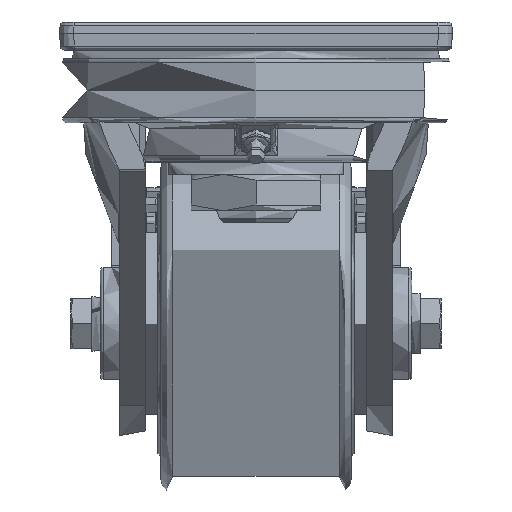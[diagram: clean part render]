
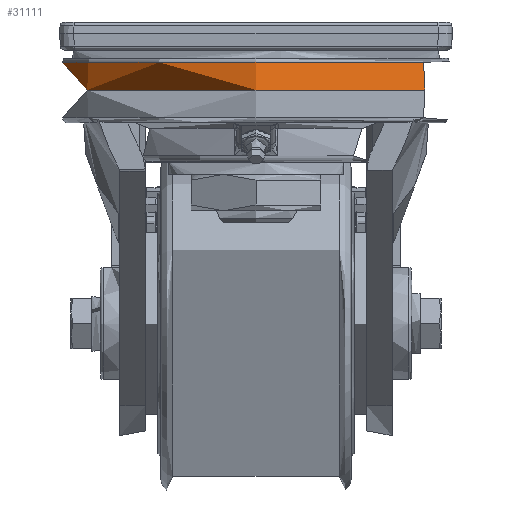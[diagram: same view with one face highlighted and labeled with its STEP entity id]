
A CAD part, left-side view. The second image highlights one B-rep face of the part: STEP entity #31111.
In plain terms, the highlighted conical face has half-angle 3 degrees and reference radius 69.242 mm.
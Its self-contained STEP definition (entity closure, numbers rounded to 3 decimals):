
#197=CONICAL_SURFACE('',#33366,69.242,0.052);
#3853=LINE('',#58060,#6271);
#6271=VECTOR('',#39850,69.242);
#8559=FACE_OUTER_BOUND('',#10436,.T.);
#10436=EDGE_LOOP('',(#27241,#27242,#27243,#27244,#27245,#27246,#27247));
#11628=CIRCLE('',#33362,68.984);
#11629=CIRCLE('',#33363,68.984);
#11630=CIRCLE('',#33364,68.984);
#11632=CIRCLE('',#33367,69.5);
#11633=CIRCLE('',#33368,69.5);
#14439=VERTEX_POINT('',#58048);
#14440=VERTEX_POINT('',#58049);
#14441=VERTEX_POINT('',#58051);
#14442=VERTEX_POINT('',#58056);
#14443=VERTEX_POINT('',#58057);
#18788=EDGE_CURVE('',#14439,#14440,#11628,.T.);
#18789=EDGE_CURVE('',#14441,#14439,#11629,.T.);
#18790=EDGE_CURVE('',#14440,#14441,#11630,.T.);
#18792=EDGE_CURVE('',#14442,#14443,#11632,.T.);
#18793=EDGE_CURVE('',#14443,#14442,#11633,.T.);
#18794=EDGE_CURVE('',#14443,#14441,#3853,.T.);
#27241=ORIENTED_EDGE('',*,*,#18792,.F.);
#27242=ORIENTED_EDGE('',*,*,#18793,.F.);
#27243=ORIENTED_EDGE('',*,*,#18794,.T.);
#27244=ORIENTED_EDGE('',*,*,#18789,.T.);
#27245=ORIENTED_EDGE('',*,*,#18788,.T.);
#27246=ORIENTED_EDGE('',*,*,#18790,.T.);
#27247=ORIENTED_EDGE('',*,*,#18794,.F.);
#31111=ADVANCED_FACE('',(#8559),#197,.T.);
#33362=AXIS2_PLACEMENT_3D('',#58050,#39836,#39837);
#33363=AXIS2_PLACEMENT_3D('',#58052,#39838,#39839);
#33364=AXIS2_PLACEMENT_3D('',#58053,#39840,#39841);
#33366=AXIS2_PLACEMENT_3D('',#58055,#39844,#39845);
#33367=AXIS2_PLACEMENT_3D('',#58058,#39846,#39847);
#33368=AXIS2_PLACEMENT_3D('',#58059,#39848,#39849);
#39836=DIRECTION('center_axis',(0.,0.,
-1.));
#39837=DIRECTION('ref_axis',(-1.,0.,0.));
#39838=DIRECTION('center_axis',(0.,0.,
-1.));
#39839=DIRECTION('ref_axis',(-1.,0.,0.));
#39840=DIRECTION('center_axis',(0.,0.,
-1.));
#39841=DIRECTION('ref_axis',(-1.,0.,0.));
#39844=DIRECTION('center_axis',(0.,0.,
-1.));
#39845=DIRECTION('ref_axis',(-1.,0.,0.));
#39846=DIRECTION('center_axis',(0.,0.,
-1.));
#39847=DIRECTION('ref_axis',(-1.,0.,0.));
#39848=DIRECTION('center_axis',(0.,0.,
-1.));
#39849=DIRECTION('ref_axis',(-1.,0.,0.));
#39850=DIRECTION('',(-0.052,0.,0.999));
#58048=CARTESIAN_POINT('',(-68.984,0.,-1.395));
#58049=CARTESIAN_POINT('',(0.,68.984,-1.395));
#58050=CARTESIAN_POINT('Origin',(0.,0.,
-1.395));
#58051=CARTESIAN_POINT('',(68.984,0.,-1.395));
#58052=CARTESIAN_POINT('Origin',(0.,0.,
-1.395));
#58053=CARTESIAN_POINT('Origin',(0.,0.,
-1.395));
#58055=CARTESIAN_POINT('Origin',(0.,0.,
-6.323));
#58056=CARTESIAN_POINT('',(-69.5,0.,-11.25));
#58057=CARTESIAN_POINT('',(69.5,0.,-11.25));
#58058=CARTESIAN_POINT('Origin',(0.,0.,
-11.25));
#58059=CARTESIAN_POINT('Origin',(0.,0.,
-11.25));
#58060=CARTESIAN_POINT('',(69.242,0.,-6.323));
